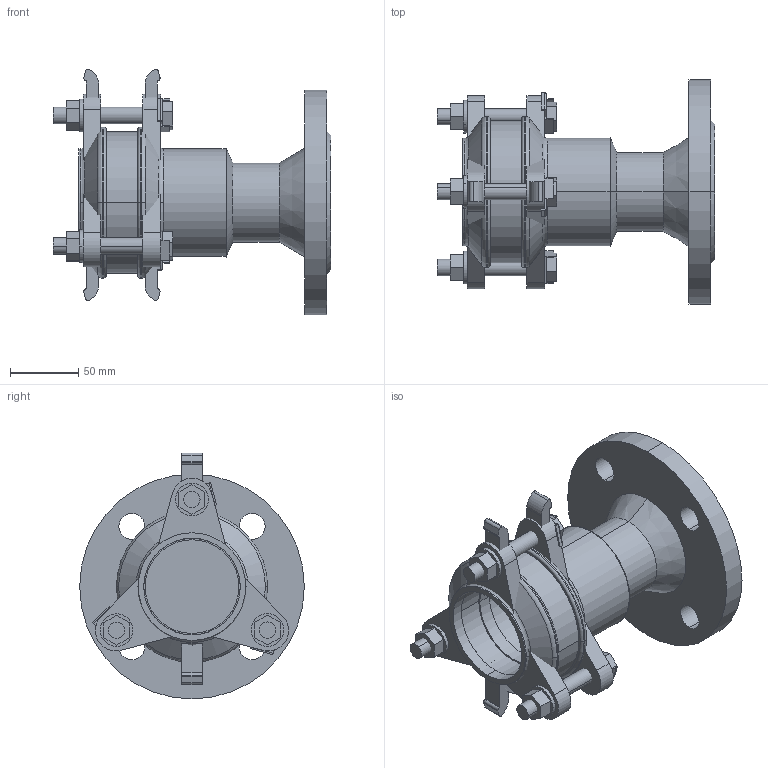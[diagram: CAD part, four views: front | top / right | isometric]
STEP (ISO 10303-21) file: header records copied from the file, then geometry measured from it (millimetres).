
FILE_DESCRIPTION(('STEP AP214'),'1');
FILE_NAME('EM000030 DN 50.STP','2015-01-29T08:57:18',(' '),(' '),'Spatial InterOp 3D',' ',' ');
FILE_SCHEMA(('automotive_design'));
Length unit declared in the file: millimetre
Products named in the file (38): 3D-Objekt
Bounding box: 204 x 165 x 180.55 mm (x, y, z)
Volume: 858056.9 mm3; surface area: 272771.3 mm2
Topology: 38 solids, 38 shells, 299 faces, 667 edges, 444 vertices
Faces by surface type: plane 186, cylinder 87, cone 14, torus 12
Entity records: 11661 total; most frequent: DIRECTION 1577, CARTESIAN_POINT 1448, ORIENTED_EDGE 1334, EDGE_CURVE 667, AXIS2_PLACEMENT_3D 573, VERTEX_POINT 444, LINE 431, VECTOR 431
